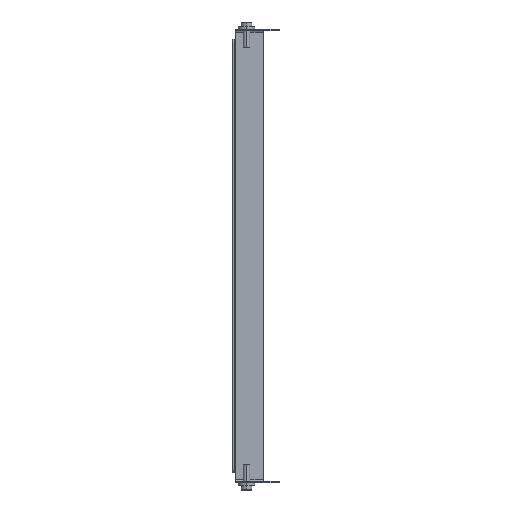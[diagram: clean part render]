
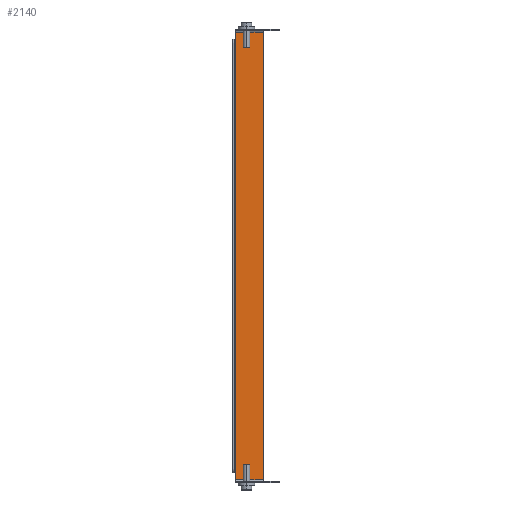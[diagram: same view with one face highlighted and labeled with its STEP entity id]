
A CAD part, left-side view. The second image highlights one B-rep face of the part: STEP entity #2140.
In plain terms, the highlighted planar face has unit normal (-1, 0, 0) as drawn and (0, 0, 1) by its records, which use the part's own axes.
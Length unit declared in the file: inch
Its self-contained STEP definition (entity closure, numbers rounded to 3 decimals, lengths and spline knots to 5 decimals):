
#741=DIRECTION('',(0.,-1.,0.));
#742=VECTOR('',#741,1.03498);
#743=CARTESIAN_POINT('',(8.3095,0.8125,0.));
#744=LINE('',#743,#742);
#749=DIRECTION('',(1.,0.,0.));
#750=VECTOR('',#749,16.619);
#751=CARTESIAN_POINT('',(-8.3095,-0.22248,0.));
#752=LINE('',#751,#750);
#757=DIRECTION('',(0.,1.,0.));
#758=VECTOR('',#757,1.03498);
#759=CARTESIAN_POINT('',(-8.3095,-0.22248,0.));
#760=LINE('',#759,#758);
#779=DIRECTION('',(1.,0.,0.));
#780=VECTOR('',#779,0.2645);
#781=CARTESIAN_POINT('',(-8.3095,0.8125,0.));
#782=LINE('',#781,#780);
#797=DIRECTION('',(1.,0.,0.));
#798=VECTOR('',#797,16.09);
#799=CARTESIAN_POINT('',(-8.045,0.8125,0.));
#800=LINE('',#799,#798);
#891=DIRECTION('',(1.,0.,0.));
#892=VECTOR('',#891,0.2645);
#893=CARTESIAN_POINT('',(8.045,0.8125,0.));
#894=LINE('',#893,#892);
#1119=CARTESIAN_POINT('',(-8.045,0.8125,0.));
#1121=VERTEX_POINT('',#1119);
#1157=CARTESIAN_POINT('',(-8.3095,-0.22248,0.));
#1158=CARTESIAN_POINT('',(-8.3095,0.8125,0.));
#1159=VERTEX_POINT('',#1157);
#1160=VERTEX_POINT('',#1158);
#1250=CARTESIAN_POINT('',(8.045,0.8125,0.));
#1252=VERTEX_POINT('',#1250);
#1339=CARTESIAN_POINT('',(8.3095,0.8125,0.));
#1340=VERTEX_POINT('',#1339);
#1341=CARTESIAN_POINT('',(8.3095,-0.22248,0.));
#1342=VERTEX_POINT('',#1341);
#2123=CARTESIAN_POINT('',(0.,0.,0.));
#2124=DIRECTION('',(0.,0.,1.));
#2125=DIRECTION('',(1.,0.,0.));
#2126=AXIS2_PLACEMENT_3D('',#2123,#2124,#2125);
#2127=PLANE('',#2126);
#2128=ORIENTED_EDGE('',*,*,#1727,.F.);
#2130=ORIENTED_EDGE('',*,*,#2129,.T.);
#2132=ORIENTED_EDGE('',*,*,#2131,.T.);
#2134=ORIENTED_EDGE('',*,*,#2133,.T.);
#2136=ORIENTED_EDGE('',*,*,#2135,.T.);
#2137=ORIENTED_EDGE('',*,*,#2115,.T.);
#2138=EDGE_LOOP('',(#2128,#2130,#2132,#2134,#2136,#2137));
#2139=FACE_OUTER_BOUND('',#2138,.F.);
#1727=EDGE_CURVE('',#1159,#1342,#752,.T.);
#2115=EDGE_CURVE('',#1340,#1342,#744,.T.);
#2129=EDGE_CURVE('',#1159,#1160,#760,.T.);
#2131=EDGE_CURVE('',#1160,#1121,#782,.T.);
#2133=EDGE_CURVE('',#1121,#1252,#800,.T.);
#2135=EDGE_CURVE('',#1252,#1340,#894,.T.);
#2140=ADVANCED_FACE('',(#2139),#2127,.T.);
